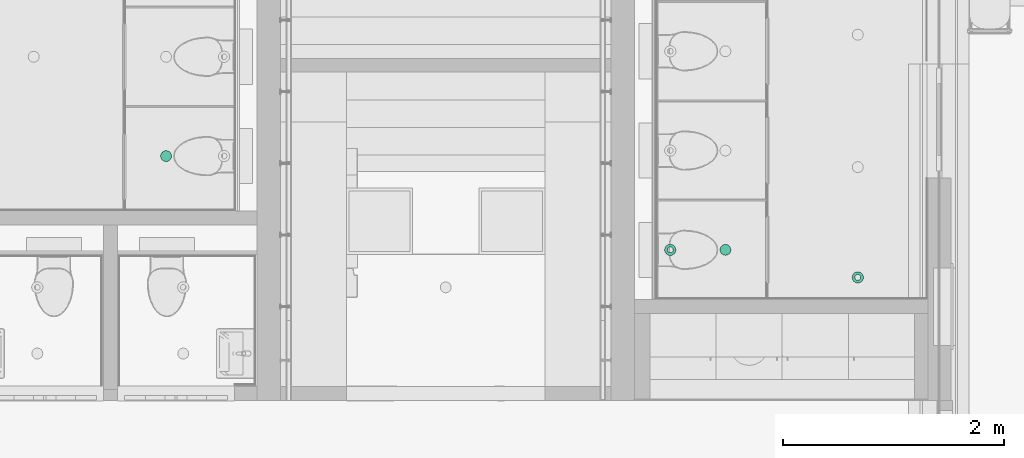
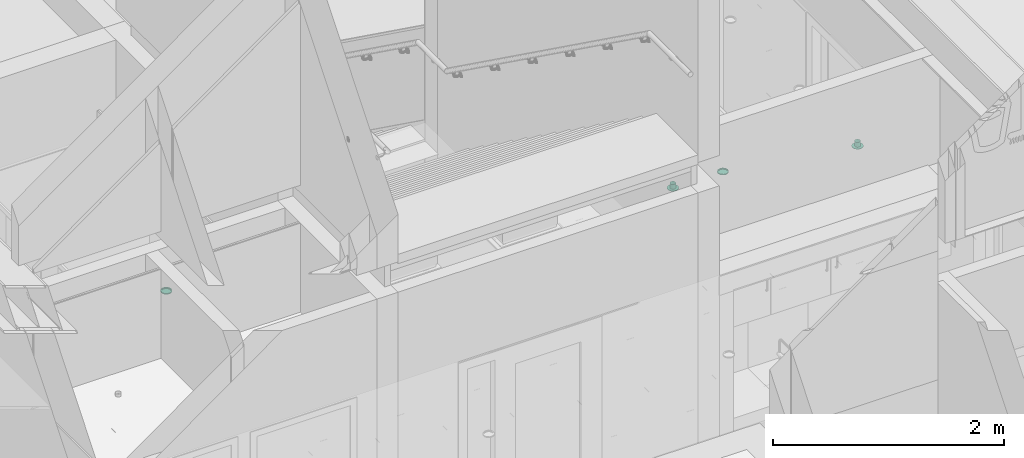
# One storey, part 256 of 347: 4 flow terminals.
"""IFC2X3 building model written with IfcOpenShell, lengths in millimetres."""

import ifcopenshell
import ifcopenshell.guid

model = None  # the IFC model being written
_history = None  # IfcOwnerHistory: only IFC2X3 demands one
_inside = {}  # id of a spatial element -> (the spatial element, [elements in it])
_under = {}  # id of a project, library or spatial element -> (it, [spatial elements below it])
_declared = {}  # id of a project -> (the project, [libraries it declares])
_typed = {}  # id of a type object -> (the type object, [elements of that type])
_made_of = {}  # id of a material, layer set ... -> (it, [elements and type objects made of it])


def new_model(schema):
    """Start an empty IFC model of exactly this schema.

    Asked for "IFC4X3", IfcOpenShell would pick the latest addendum, in which some entities
    have other attributes; the version numbers below select the first issue.
    IFC2X3 requires an IfcOwnerHistory on every rooted entity: one is made here for all.
    """
    global model, _history
    if schema == "IFC4X3":
        model = ifcopenshell.file(schema_version=(4, 3, 0, 0))
    else:
        model = ifcopenshell.file(schema=schema)
    _inside.clear()
    _under.clear()
    _declared.clear()
    _typed.clear()
    _made_of.clear()
    _history = None
    if model.schema == "IFC2X3":
        org = make("IfcOrganization", Name="unknown")
        user = make(
            "IfcPersonAndOrganization",
            ThePerson=make("IfcPerson", FamilyName="unknown"),
            TheOrganization=org,
        )
        app = make(
            "IfcApplication",
            ApplicationDeveloper=org,
            Version="unknown",
            ApplicationFullName="unknown",
            ApplicationIdentifier="unknown",
        )
        _history = make(
            "IfcOwnerHistory",
            OwningUser=user,
            OwningApplication=app,
            ChangeAction="ADDED",
            CreationDate=0,
        )
    return model


def make(cls, **values):
    """One entity of the class cls with the attributes given. An attribute that is None is left unset."""
    return model.create_entity(
        cls, **{name: value for name, value in values.items() if value is not None}
    )


def entity(cls, *values):
    """Any entity or typed value of the class cls, its attributes in the order of the schema. None: left unset."""
    e = model.create_entity(cls)
    for i, value in enumerate(values):
        if value is not None:
            e[i] = value
    return e


def rooted(cls, **values):
    """An entity with a GlobalId (a new one), such as an element, a storey or a relation."""
    return make(cls, GlobalId=ifcopenshell.guid.new(), OwnerHistory=_history, **values)


def si_unit(unit_type, name, prefix=None):
    """IfcSIUnit, for example si_unit("LENGTHUNIT", "METRE", prefix="MILLI")."""
    return make("IfcSIUnit", UnitType=unit_type, Prefix=prefix, Name=name)


def converted_unit(unit_type, name, factor, base, dimensions=None, offset=None):
    """IfcConversionBasedUnit, such as the inch: factor (a typed value) times the base unit."""
    return make(
        "IfcConversionBasedUnit"
        if offset is None
        else "IfcConversionBasedUnitWithOffset",
        ConversionOffset=offset,
        Dimensions=None
        if dimensions is None
        else entity("IfcDimensionalExponents", *dimensions),
        UnitType=unit_type,
        Name=name,
        ConversionFactor=make(
            "IfcMeasureWithUnit", ValueComponent=factor, UnitComponent=base
        ),
    )


def derived_unit(unit_type, elements):
    """IfcDerivedUnit: a product of units, each with its exponent."""
    return make(
        "IfcDerivedUnit",
        Elements=[
            make("IfcDerivedUnitElement", Unit=unit, Exponent=power)
            for unit, power in elements
        ],
        UnitType=unit_type,
    )


def money_unit(currency):
    """IfcMonetaryUnit."""
    return make("IfcMonetaryUnit", Currency=currency)


def assignment(units):
    """IfcUnitAssignment: the units of a project."""
    return None if units is None else make("IfcUnitAssignment", Units=units)


def point(xyz):
    """IfcCartesianPoint."""
    return None if xyz is None else make("IfcCartesianPoint", Coordinates=xyz)


def direction(xyz):
    """IfcDirection."""
    return None if xyz is None else make("IfcDirection", DirectionRatios=xyz)


def frame(location, z_axis=None, x_axis=None):
    """IfcAxis2Placement3D, a coordinate frame: its origin and axes. An axis left out is left unset."""
    return make(
        "IfcAxis2Placement3D",
        Location=point(location),
        Axis=direction(z_axis),
        RefDirection=direction(x_axis),
    )


def origin_with_axes():
    """The frame at (0, 0, 0) with the z axis (0, 0, 1) and the x axis (1, 0, 0) written out."""
    return frame((0.0, 0.0, 0.0), z_axis=(0.0, 0.0, 1.0), x_axis=(1.0, 0.0, 0.0))


def place(relative_to, where):
    """IfcLocalPlacement: puts the frame where relative to a parent placement (None: the world)."""
    return make(
        "IfcLocalPlacement", PlacementRelTo=relative_to, RelativePlacement=where
    )


def context(
    kind, dimensions, precision=None, world=None, true_north=None, identifier=None
):
    """IfcGeometricRepresentationContext, for example the 3D "Model" context."""
    return make(
        "IfcGeometricRepresentationContext",
        ContextIdentifier=identifier,
        ContextType=kind,
        CoordinateSpaceDimension=dimensions,
        Precision=precision,
        WorldCoordinateSystem=world,
        TrueNorth=true_north,
    )


def subcontext(parent, identifier, kind, view, scale=None):
    """IfcGeometricRepresentationSubContext, for example "Body" below "Model"."""
    return make(
        "IfcGeometricRepresentationSubContext",
        ContextIdentifier=identifier,
        ContextType=kind,
        ParentContext=parent,
        TargetScale=scale,
        TargetView=view,
    )


def project(units=None, contexts=None):
    """IfcProject with its units and contexts."""
    return rooted(
        "IfcProject",
        Name="project",
        RepresentationContexts=contexts,
        UnitsInContext=assignment(units),
    )


def spatial(cls, under=None, at=None, **own):
    """A site, building, storey or space (cls), placed at a placement, below another one or the project."""
    s = rooted(cls, ObjectPlacement=at, **own)
    if under is not None:
        _under.setdefault(under.id(), (under, []))[1].append(s)
    return s


def faces_of(points, faces, orient=None, outer=None):
    """IfcFace entities. A face is a list of loops; a loop is a list of indices into points, from 0.

    orient and outer hold one flag for each loop. By default every Orientation is true, the
    first loop of a face is its IfcFaceOuterBound and the others are IfcFaceBound.
    """
    made = []
    for i, loops in enumerate(faces):
        bounds = []
        for j, loop in enumerate(loops):
            is_outer = j == 0 if outer is None else outer[i][j]
            bounds.append(
                make(
                    "IfcFaceOuterBound" if is_outer else "IfcFaceBound",
                    Bound=make("IfcPolyLoop", Polygon=[points[k] for k in loop]),
                    Orientation=True if orient is None else orient[i][j],
                )
            )
        made.append(make("IfcFace", Bounds=bounds))
    return made


def open_shell(faces, orient=None, outer=None):
    """The faces of one IfcOpenShell. surface_model builds it on its shared points."""
    return ("IfcOpenShell", faces, orient, outer)


def faceted_brep(points, faces, orient=None, outer=None, voids=None):
    """IfcFacetedBrep: a solid bounded by flat faces; with voids (closed shells), ...WithVoids."""
    shared = [point(p) for p in points]
    hull = make("IfcClosedShell", CfsFaces=faces_of(shared, faces, orient, outer))
    if voids is None:
        return make("IfcFacetedBrep", Outer=hull)
    return make(
        "IfcFacetedBrepWithVoids",
        Outer=hull,
        Voids=[
            make(cls, CfsFaces=faces_of(shared, fs, o, b)) for cls, fs, o, b in voids
        ],
    )


def surface_model(cls, points, shells):
    """IfcFaceBasedSurfaceModel or IfcShellBasedSurfaceModel (cls): surfaces that need not close."""
    shared = [point(p) for p in points]
    made = [make(c, CfsFaces=faces_of(shared, fs, o, b)) for c, fs, o, b in shells]
    if cls == "IfcFaceBasedSurfaceModel":
        return make(cls, FbsmFaces=made)
    return make(cls, SbsmBoundary=made)


def shape(context_of_items, identifier, shape_type, items):
    """IfcShapeRepresentation: the items that make up one representation, for example the "Body"."""
    return make(
        "IfcShapeRepresentation",
        ContextOfItems=context_of_items,
        RepresentationIdentifier=identifier,
        RepresentationType=shape_type,
        Items=items,
    )


def source(mapping_origin, context_of_items, identifier, shape_type, items):
    """IfcRepresentationMap: a shape defined once, which mapped items show again and again."""
    return make(
        "IfcRepresentationMap",
        MappingOrigin=mapping_origin,
        MappedRepresentation=shape(context_of_items, identifier, shape_type, items),
    )


def transform(
    local_origin,
    x_axis=None,
    y_axis=None,
    z_axis=None,
    scale=None,
    scale2=None,
    scale3=None,
    uniform=True,
):
    """IfcCartesianTransformationOperator3D, or its non-uniform kind. x_axis, y_axis, z_axis: its Axis1, 2, 3."""
    if uniform:
        return make(
            "IfcCartesianTransformationOperator3D",
            Axis1=direction(x_axis),
            Axis2=direction(y_axis),
            LocalOrigin=point(local_origin),
            Scale=scale,
            Axis3=direction(z_axis),
        )
    return make(
        "IfcCartesianTransformationOperator3DnonUniform",
        Axis1=direction(x_axis),
        Axis2=direction(y_axis),
        LocalOrigin=point(local_origin),
        Scale=scale,
        Axis3=direction(z_axis),
        Scale2=scale2,
        Scale3=scale3,
    )


def mapped(mapping_source, mapping_target):
    """IfcMappedItem: shows the shape of a source again, moved by a transform."""
    return make(
        "IfcMappedItem", MappingSource=mapping_source, MappingTarget=mapping_target
    )


def made_of(thing, what):
    """Note that an element or type object is made of a material, layer set ...; save() writes the relation."""
    if what is not None:
        _made_of.setdefault(what.id(), (what, []))[1].append(thing)
    return thing


def type_object(cls, material=None, **own):
    """A type object (cls), such as IfcWallType, which elements share."""
    return made_of(rooted(cls, **own), material)


def type_shapes(of_type, sources):
    """Give a type object the sources (RepresentationMaps) that its elements show as mapped items."""
    of_type.RepresentationMaps = sources


def element(
    cls,
    number,
    at=None,
    inside=None,
    cuts=None,
    type_object=None,
    material=None,
    context=None,
    identifier="Body",
    shape_type=None,
    held_by="IfcProductDefinitionShape",
    body=None,
    shapes=None,
    **own,
):
    """One element of the class cls, such as IfcWall. Its Tag is "e" and its number.

    at: its placement. inside: the storey or other place that contains it. cuts: it is an
    opening in that element (IfcRelVoidsElement). A single representation is given by context,
    identifier, shape_type and body (its items); several are given by shapes. held_by: the class
    of the entity that holds the representations. save() writes the other relations.
    """
    e = rooted(cls, Tag="e%d" % number, ObjectPlacement=at, **own)
    if body is not None:
        shapes = [shape(context, identifier, shape_type, body)]
    if shapes is not None:
        e.Representation = make(held_by, Representations=shapes)
    if inside is not None:
        _inside.setdefault(inside.id(), (inside, []))[1].append(e)
    if cuts is not None:
        rooted(
            "IfcRelVoidsElement", RelatingBuildingElement=cuts, RelatedOpeningElement=e
        )
    if type_object is not None:
        _typed.setdefault(type_object.id(), (type_object, []))[1].append(e)
    return made_of(e, material)


def aggregate(whole, parts):
    """IfcRelAggregates: a whole, such as a stair, and the parts it consists of."""
    return rooted("IfcRelAggregates", RelatingObject=whole, RelatedObjects=parts)


def save(model, path):
    """Write the relations noted so far, then the file.

    IfcRelAggregates (storeys below a building ...), IfcRelContainedInSpatialStructure (elements
    in a storey), IfcRelDefinesByType, IfcRelAssociatesMaterial and IfcRelDeclares: one each for
    every whole, place, type object, material and project.
    """
    for whole, parts in _under.values():
        aggregate(whole, parts)
    for where, things in _inside.values():
        rooted(
            "IfcRelContainedInSpatialStructure",
            RelatedElements=things,
            RelatingStructure=where,
        )
    for kind, things in _typed.values():
        rooted("IfcRelDefinesByType", RelatedObjects=things, RelatingType=kind)
    for what, things in _made_of.values():
        rooted("IfcRelAssociatesMaterial", RelatedObjects=things, RelatingMaterial=what)
    for by, libraries in _declared.values():
        rooted("IfcRelDeclares", RelatingContext=by, RelatedDefinitions=libraries)
    model.write(path)


model = new_model("IFC2X3")

# Units and contexts
model_context = context("Model", 3, precision=0.01, world=origin_with_axes(), true_north=direction((0.0, 1.0)))
plan_context = context("Plan", 3, precision=0.01, world=origin_with_axes(), true_north=direction((0.0, 1.0)))
body_context = subcontext(model_context, "Body", "Model", "MODEL_VIEW")
ifc_project = project(units=[si_unit("LENGTHUNIT", "METRE", prefix="MILLI"), si_unit("AREAUNIT", "SQUARE_METRE"), si_unit("VOLUMEUNIT", "CUBIC_METRE"), converted_unit("PLANEANGLEUNIT", "DEGREE", entity("IfcPlaneAngleMeasure", 0.0174532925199), si_unit("PLANEANGLEUNIT", "RADIAN"), dimensions=[0, 0, 0, 0, 0, 0, 0]), money_unit("EUR"), converted_unit("TIMEUNIT", "Year", entity("IfcTimeMeasure", 31556926.0), si_unit("TIMEUNIT", "SECOND"), dimensions=[0, 0, 1, 0, 0, 0, 0]), si_unit("MASSUNIT", "GRAM", prefix="KILO"), si_unit("THERMODYNAMICTEMPERATUREUNIT", "DEGREE_CELSIUS"), si_unit("LUMINOUSINTENSITYUNIT", "LUMEN"), si_unit("ENERGYUNIT", "JOULE", prefix="MEGA"), derived_unit("THERMALCONDUCTANCEUNIT", [(si_unit("POWERUNIT", "WATT"), 1), (si_unit("LENGTHUNIT", "METRE"), -1), (si_unit("THERMODYNAMICTEMPERATUREUNIT", "KELVIN"), -1)]), derived_unit("SPECIFICHEATCAPACITYUNIT", [(si_unit("ENERGYUNIT", "JOULE"), 1), (si_unit("MASSUNIT", "GRAM", prefix="KILO"), -1), (si_unit("THERMODYNAMICTEMPERATUREUNIT", "KELVIN"), -1)]), derived_unit("MASSDENSITYUNIT", [(si_unit("MASSUNIT", "GRAM", prefix="KILO"), 1), (si_unit("VOLUMEUNIT", "CUBIC_METRE"), -1)])], contexts=[model_context, plan_context])

# Site, building, storey
site_placement = place(None, origin_with_axes())
site = spatial("IfcSite", under=ifc_project, at=site_placement, Name="Site", CompositionType="ELEMENT")
building_placement = place(site_placement, origin_with_axes())
building = spatial("IfcBuilding", under=site, at=building_placement, Name="Naam gebouw", CompositionType="ELEMENT")
storey_placement = place(building_placement, origin_with_axes())
storey = spatial("IfcBuildingStorey", under=building, at=storey_placement, Name="begane grond", CompositionType="ELEMENT", Elevation=0.0)

# Flow terminals
lamp_type = type_object("IfcLampType", Name="Spot plafond 01 25", PredefinedType="NOTDEFINED")
shared_shape_1 = source(origin_with_axes(), body_context, "Body", "SurfaceModel", [
    faceted_brep([(50.0, 0.0, -10.0), (46.1939766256, 19.1341716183, -10.0), (46.1939766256, 19.1341716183, 0.0), (50.0, 0.0, 0.0), (46.1939766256, -19.1341716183, -10.0), (35.3553390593, -35.3553390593, -10.0), (19.1341716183, -46.1939766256, -10.0), (0.0, -50.0, -10.0), (-19.1341716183, -46.1939766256, -10.0), (-35.3553390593, -35.3553390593, -10.0), (-46.1939766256, -19.1341716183, -10.0), (-50.0, 0.0, -10.0), (-46.1939766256, 19.1341716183, -10.0), (-35.3553390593, 35.3553390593, -10.0), (-19.1341716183, 46.1939766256, -10.0), (0.0, 50.0, -10.0), (19.1341716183, 46.1939766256, -10.0), (35.3553390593, 35.3553390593, -10.0), (40.0, 0.0, -10.0), (36.9551813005, 15.3073372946, -10.0), (28.2842712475, 28.2842712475, -10.0), (15.3073372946, 36.9551813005, -10.0), (0.0, 40.0, -10.0), (-15.3073372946, 36.9551813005, -10.0), (-28.2842712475, 28.2842712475, -10.0), (-36.9551813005, 15.3073372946, -10.0), (-40.0, 0.0, -10.0), (-36.9551813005, -15.3073372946, -10.0), (-28.2842712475, -28.2842712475, -10.0), (-15.3073372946, -36.9551813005, -10.0), (0.0, -40.0, -10.0), (15.3073372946, -36.9551813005, -10.0), (28.2842712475, -28.2842712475, -10.0), (36.9551813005, -15.3073372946, -10.0), (35.3553390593, 35.3553390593, 0.0), (19.1341716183, 46.1939766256, 0.0), (0.0, 50.0, 0.0), (-19.1341716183, 46.1939766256, 0.0), (-35.3553390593, 35.3553390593, 0.0), (-46.1939766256, 19.1341716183, 0.0), (-50.0, 0.0, 0.0), (-46.1939766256, -19.1341716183, 0.0), (-35.3553390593, -35.3553390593, 0.0), (-19.1341716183, -46.1939766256, 0.0), (0.0, -50.0, 0.0), (19.1341716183, -46.1939766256, 0.0), (35.3553390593, -35.3553390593, 0.0), (46.1939766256, -19.1341716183, 0.0), (40.0, 0.0, 0.0), (36.9551813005, -15.3073372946, 0.0), (28.2842712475, -28.2842712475, 0.0), (15.3073372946, -36.9551813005, 0.0), (0.0, -40.0, 0.0), (-15.3073372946, -36.9551813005, 0.0), (-28.2842712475, -28.2842712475, 0.0), (-36.9551813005, -15.3073372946, 0.0), (-40.0, 0.0, 0.0), (-36.9551813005, 15.3073372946, 0.0), (-28.2842712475, 28.2842712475, 0.0), (-15.3073372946, 36.9551813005, 0.0), (0.0, 40.0, 0.0), (15.3073372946, 36.9551813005, 0.0), (28.2842712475, 28.2842712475, 0.0), (36.9551813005, 15.3073372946, 0.0)], [[[0, 1, 2, 3]], [[0, 4, 5, 6, 7, 8, 9, 10, 11, 12, 13, 14, 15, 16, 17, 1], [18, 19, 20, 21, 22, 23, 24, 25, 26, 27, 28, 29, 30, 31, 32, 33]], [[1, 17, 34, 2]], [[3, 2, 34, 35, 36, 37, 38, 39, 40, 41, 42, 43, 44, 45, 46, 47], [48, 49, 50, 51, 52, 53, 54, 55, 56, 57, 58, 59, 60, 61, 62, 63]], [[4, 0, 3, 47]], [[5, 4, 47, 46]], [[6, 5, 46, 45]], [[7, 6, 45, 44]], [[8, 7, 44, 43]], [[9, 8, 43, 42]], [[10, 9, 42, 41]], [[11, 10, 41, 40]], [[12, 11, 40, 39]], [[13, 12, 39, 38]], [[14, 13, 38, 37]], [[15, 14, 37, 36]], [[16, 15, 36, 35]], [[17, 16, 35, 34]], [[19, 18, 48, 63]], [[20, 19, 63, 62]], [[21, 20, 62, 61]], [[22, 21, 61, 60]], [[23, 22, 60, 59]], [[24, 23, 59, 58]], [[25, 24, 58, 57]], [[26, 25, 57, 56]], [[27, 26, 56, 55]], [[28, 27, 55, 54]], [[29, 28, 54, 53]], [[30, 29, 53, 52]], [[31, 30, 52, 51]], [[32, 31, 51, 50]], [[33, 32, 50, 49]], [[18, 33, 49, 48]]]),
    surface_model("IfcShellBasedSurfaceModel", [(40.0, 0.0, -8.9), (36.9551813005, -15.3073372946, -8.9), (28.2842712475, -28.2842712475, -8.9), (15.3073372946, -36.9551813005, -8.9), (0.0, -40.0, -8.9), (-15.3073372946, -36.9551813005, -8.9), (-28.2842712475, -28.2842712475, -8.9), (-36.9551813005, -15.3073372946, -8.9), (-40.0, 0.0, -8.9), (-36.9551813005, 15.3073372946, -8.9), (-28.2842712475, 28.2842712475, -8.9), (-15.3073372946, 36.9551813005, -8.9), (0.0, 40.0, -8.9), (15.3073372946, 36.9551813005, -8.9), (28.2842712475, 28.2842712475, -8.9), (36.9551813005, 15.3073372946, -8.9)], [open_shell([[[0, 1, 2, 3, 4, 5, 6, 7, 8, 9, 10, 11, 12, 13, 14, 15]]])]),
])
type_shapes(lamp_type, [shared_shape_1])
for number, where, z_axis, x_axis, name in (
    (1, (42609.9999997, 31439.9999523, 2600.0), (0.0, 0.0, 1.0), (1.0, 0.0, 0.0), "63_Lamp-x"),
    (2, (37540.0, 32289.9999277, 2600.0), (0.0, 0.0, 1.0), (1.0, 0.0, 0.0), "63_Lamp-x"),
):
    element("IfcFlowTerminal", number, at=place(storey_placement, frame(where, z_axis=z_axis, x_axis=x_axis)), inside=storey, type_object=lamp_type, Name=name, ObjectType="Lamp", context=body_context, shape_type="MappedRepresentation", body=[
        mapped(shared_shape_1, transform((0.0, 0.0, 0.0))),
    ])
air_terminal_type = type_object("IfcAirTerminalType", Name="Rooster plafond rond 25", PredefinedType="GRILLE")
shared_shape_2 = source(origin_with_axes(), body_context, "Body", "SurfaceModel", [
    faceted_brep([(51.0, 0.0, -5.0), (49.2622171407, 13.1997713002, -5.0), (49.2622171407, 13.1997713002, 0.0), (51.0, 0.0, 0.0), (49.2622171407, -13.1997713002, -5.0), (44.167295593, -25.5, -5.0), (36.0624458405, -36.0624458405, -5.0), (25.5, -44.167295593, -5.0), (13.1997713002, -49.2622171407, -5.0), (0.0, -51.0, -5.0), (-13.1997713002, -49.2622171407, -5.0), (-25.5, -44.167295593, -5.0), (-36.0624458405, -36.0624458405, -5.0), (-44.167295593, -25.5, -5.0), (-49.2622171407, -13.1997713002, -5.0), (-51.0, 0.0, -5.0), (-49.2622171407, 13.1997713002, -5.0), (-44.167295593, 25.5, -5.0), (-36.0624458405, 36.0624458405, -5.0), (-25.5, 44.167295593, -5.0), (-13.1997713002, 49.2622171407, -5.0), (0.0, 51.0, -5.0), (13.1997713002, 49.2622171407, -5.0), (25.5, 44.167295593, -5.0), (36.0624458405, 36.0624458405, -5.0), (44.167295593, 25.5, -5.0), (26.0, 0.0, -5.0), (25.1140714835, 6.72929517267, -5.0), (22.5166604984, 13.0, -5.0), (18.3847763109, 18.3847763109, -5.0), (13.0, 22.5166604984, -5.0), (6.72929517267, 25.1140714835, -5.0), (0.0, 26.0, -5.0), (-6.72929517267, 25.1140714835, -5.0), (-13.0, 22.5166604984, -5.0), (-18.3847763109, 18.3847763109, -5.0), (-22.5166604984, 13.0, -5.0), (-25.1140714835, 6.72929517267, -5.0), (-26.0, 0.0, -5.0), (-25.1140714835, -6.72929517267, -5.0), (-22.5166604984, -13.0, -5.0), (-18.3847763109, -18.3847763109, -5.0), (-13.0, -22.5166604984, -5.0), (-6.72929517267, -25.1140714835, -5.0), (0.0, -26.0, -5.0), (6.72929517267, -25.1140714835, -5.0), (13.0, -22.5166604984, -5.0), (18.3847763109, -18.3847763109, -5.0), (22.5166604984, -13.0, -5.0), (25.1140714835, -6.72929517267, -5.0), (44.167295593, 25.5, 0.0), (36.0624458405, 36.0624458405, 0.0), (25.5, 44.167295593, 0.0), (13.1997713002, 49.2622171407, 0.0), (0.0, 51.0, 0.0), (-13.1997713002, 49.2622171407, 0.0), (-25.5, 44.167295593, 0.0), (-36.0624458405, 36.0624458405, 0.0), (-44.167295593, 25.5, 0.0), (-49.2622171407, 13.1997713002, 0.0), (-51.0, 0.0, 0.0), (-49.2622171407, -13.1997713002, 0.0), (-44.167295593, -25.5, 0.0), (-36.0624458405, -36.0624458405, 0.0), (-25.5, -44.167295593, 0.0), (-13.1997713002, -49.2622171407, 0.0), (0.0, -51.0, 0.0), (13.1997713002, -49.2622171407, 0.0), (25.5, -44.167295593, 0.0), (36.0624458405, -36.0624458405, 0.0), (44.167295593, -25.5, 0.0), (49.2622171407, -13.1997713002, 0.0), (26.0, 0.0, 0.0), (25.1140714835, -6.72929517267, 0.0), (22.5166604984, -13.0, 0.0), (18.3847763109, -18.3847763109, 0.0), (13.0, -22.5166604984, 0.0), (6.72929517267, -25.1140714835, 0.0), (0.0, -26.0, 0.0), (-6.72929517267, -25.1140714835, 0.0), (-13.0, -22.5166604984, 0.0), (-18.3847763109, -18.3847763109, 0.0), (-22.5166604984, -13.0, 0.0), (-25.1140714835, -6.72929517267, 0.0), (-26.0, 0.0, 0.0), (-25.1140714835, 6.72929517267, 0.0), (-22.5166604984, 13.0, 0.0), (-18.3847763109, 18.3847763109, 0.0), (-13.0, 22.5166604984, 0.0), (-6.72929517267, 25.1140714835, 0.0), (0.0, 26.0, 0.0), (6.72929517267, 25.1140714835, 0.0), (13.0, 22.5166604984, 0.0), (18.3847763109, 18.3847763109, 0.0), (22.5166604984, 13.0, 0.0), (25.1140714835, 6.72929517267, 0.0)], [[[0, 1, 2, 3]], [[0, 4, 5, 6, 7, 8, 9, 10, 11, 12, 13, 14, 15, 16, 17, 18, 19, 20, 21, 22, 23, 24, 25, 1], [26, 27, 28, 29, 30, 31, 32, 33, 34, 35, 36, 37, 38, 39, 40, 41, 42, 43, 44, 45, 46, 47, 48, 49]], [[1, 25, 50, 2]], [[3, 2, 50, 51, 52, 53, 54, 55, 56, 57, 58, 59, 60, 61, 62, 63, 64, 65, 66, 67, 68, 69, 70, 71], [72, 73, 74, 75, 76, 77, 78, 79, 80, 81, 82, 83, 84, 85, 86, 87, 88, 89, 90, 91, 92, 93, 94, 95]], [[4, 0, 3, 71]], [[5, 4, 71, 70]], [[6, 5, 70, 69]], [[7, 6, 69, 68]], [[8, 7, 68, 67]], [[9, 8, 67, 66]], [[10, 9, 66, 65]], [[11, 10, 65, 64]], [[12, 11, 64, 63]], [[13, 12, 63, 62]], [[14, 13, 62, 61]], [[15, 14, 61, 60]], [[16, 15, 60, 59]], [[17, 16, 59, 58]], [[18, 17, 58, 57]], [[19, 18, 57, 56]], [[20, 19, 56, 55]], [[21, 20, 55, 54]], [[22, 21, 54, 53]], [[23, 22, 53, 52]], [[24, 23, 52, 51]], [[25, 24, 51, 50]], [[27, 26, 72, 95]], [[28, 27, 95, 94]], [[29, 28, 94, 93]], [[30, 29, 93, 92]], [[31, 30, 92, 91]], [[32, 31, 91, 90]], [[33, 32, 90, 89]], [[34, 33, 89, 88]], [[35, 34, 88, 87]], [[36, 35, 87, 86]], [[37, 36, 86, 85]], [[38, 37, 85, 84]], [[39, 38, 84, 83]], [[40, 39, 83, 82]], [[41, 40, 82, 81]], [[42, 41, 81, 80]], [[43, 42, 80, 79]], [[44, 43, 79, 78]], [[45, 44, 78, 77]], [[46, 45, 77, 76]], [[47, 46, 76, 75]], [[48, 47, 75, 74]], [[49, 48, 74, 73]], [[26, 49, 73, 72]]]),
    surface_model("IfcShellBasedSurfaceModel", [(0.0, -26.0, 0.0), (6.72929517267, -25.1140714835, 0.0), (6.72929517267, -25.1140714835, 50.0), (0.0, -26.0, 50.0), (13.0, -22.5166604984, 0.0), (13.0, -22.5166604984, 50.0), (-6.72929517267, -25.1140714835, 0.0), (-6.72929517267, -25.1140714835, 50.0), (18.3847763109, -18.3847763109, 0.0), (18.3847763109, -18.3847763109, 50.0), (-13.0, -22.5166604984, 0.0), (-13.0, -22.5166604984, 50.0), (22.5166604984, -13.0, 0.0), (22.5166604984, -13.0, 50.0), (-18.3847763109, -18.3847763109, 0.0), (-18.3847763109, -18.3847763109, 50.0), (25.1140714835, -6.72929517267, 0.0), (25.1140714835, -6.72929517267, 50.0), (-22.5166604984, -13.0, 0.0), (-22.5166604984, -13.0, 50.0), (26.0, 0.0, 0.0), (26.0, 0.0, 50.0), (-25.1140714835, -6.72929517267, 0.0), (-25.1140714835, -6.72929517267, 50.0), (25.1140714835, 6.72929517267, 0.0), (25.1140714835, 6.72929517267, 50.0), (-26.0, 0.0, 0.0), (-26.0, 0.0, 50.0), (22.5166604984, 13.0, 0.0), (22.5166604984, 13.0, 50.0), (-25.1140714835, 6.72929517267, 0.0), (-25.1140714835, 6.72929517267, 50.0), (18.3847763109, 18.3847763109, 0.0), (18.3847763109, 18.3847763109, 50.0), (-22.5166604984, 13.0, 0.0), (-22.5166604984, 13.0, 50.0), (13.0, 22.5166604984, 0.0), (13.0, 22.5166604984, 50.0), (-18.3847763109, 18.3847763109, 0.0), (-18.3847763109, 18.3847763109, 50.0), (6.72929517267, 25.1140714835, 0.0), (6.72929517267, 25.1140714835, 50.0), (-13.0, 22.5166604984, 0.0), (-13.0, 22.5166604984, 50.0), (0.0, 26.0, 0.0), (0.0, 26.0, 50.0), (-6.72929517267, 25.1140714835, 0.0), (-6.72929517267, 25.1140714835, 50.0)], [open_shell([[[0, 1, 2, 3]], [[1, 4, 5, 2]], [[6, 0, 3, 7]], [[4, 8, 9, 5]], [[10, 6, 7, 11]], [[8, 12, 13, 9]], [[14, 10, 11, 15]], [[12, 16, 17, 13]], [[18, 14, 15, 19]], [[16, 20, 21, 17]], [[22, 18, 19, 23]], [[20, 24, 25, 21]], [[26, 22, 23, 27]], [[24, 28, 29, 25]], [[30, 26, 27, 31]], [[28, 32, 33, 29]], [[34, 30, 31, 35]], [[32, 36, 37, 33]], [[38, 34, 35, 39]], [[36, 40, 41, 37]], [[42, 38, 39, 43]], [[40, 44, 45, 41]], [[46, 42, 43, 47]], [[44, 46, 47, 45]]])]),
])
type_shapes(air_terminal_type, [shared_shape_2])
for number, where, z_axis, x_axis, name in (
    (3, (43810.0, 31189.9999277, 2600.0), (0.0, 0.0, 1.0), (1.0, 0.0, 0.0), "57_78 garderobe"),
    (4, (42110.0000778, 31439.9999523, 2600.0), (0.0, 0.0, 1.0), (1.0, 0.0, 0.0), "57_78 garderobe"),
):
    element("IfcFlowTerminal", number, at=place(storey_placement, frame(where, z_axis=z_axis, x_axis=x_axis)), inside=storey, type_object=air_terminal_type, Name=name, context=body_context, shape_type="MappedRepresentation", body=[
        mapped(shared_shape_2, transform((0.0, 0.0, 0.0))),
    ])

save(model, "model.ifc")
